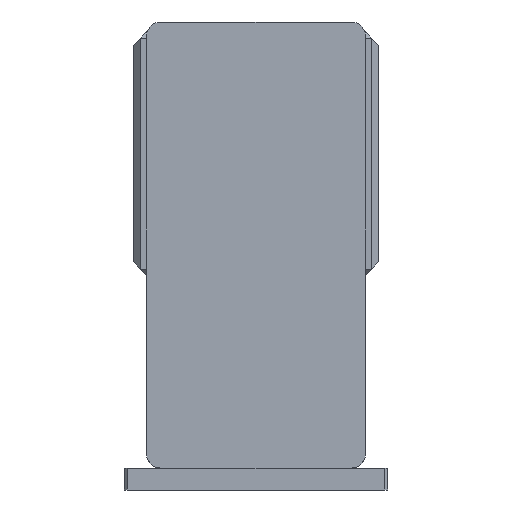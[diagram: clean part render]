
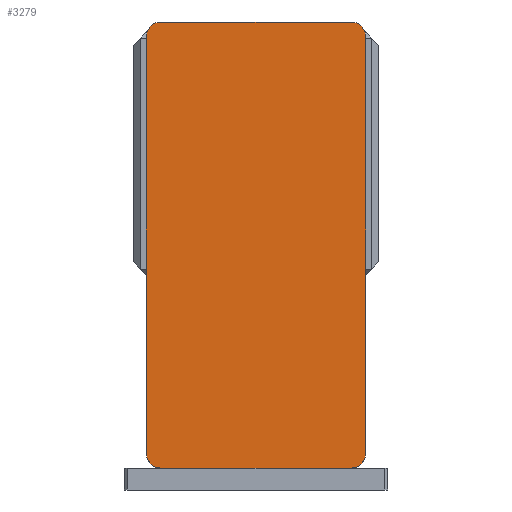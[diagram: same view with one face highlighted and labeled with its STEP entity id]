
A CAD part, left-side view. The second image highlights one B-rep face of the part: STEP entity #3279.
In plain terms, the highlighted planar face has unit normal (-1, 0, 0) as drawn and (0, 0, 1) by its records, which use the part's own axes.
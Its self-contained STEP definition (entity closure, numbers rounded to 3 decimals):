
#503 = AXIS2_PLACEMENT_3D ( 'NONE', #10462, #812, #12079 ) ;
#592 = EDGE_CURVE ( 'NONE', #19115, #14194, #10911, .T. ) ;
#812 = DIRECTION ( 'NONE',  ( 0., 0., 1. ) ) ;
#1109 = DIRECTION ( 'NONE',  ( 0., -1., 0. ) ) ;
#1526 = CARTESIAN_POINT ( 'NONE',  ( 65., -152.5, 105. ) ) ;
#1864 = EDGE_CURVE ( 'NONE', #14789, #4608, #19356, .T. ) ;
#1982 = CARTESIAN_POINT ( 'NONE',  ( -75., 152.5, 105. ) ) ;
#2236 = CIRCLE ( 'NONE', #9737, 10. ) ;
#2697 = EDGE_CURVE ( 'NONE', #9871, #4176, #4791, .T. ) ;
#2949 = EDGE_CURVE ( 'NONE', #4176, #19411, #2236, .T. ) ;
#3110 = EDGE_CURVE ( 'NONE', #6757, #19115, #8286, .T. ) ;
#3279 = ADVANCED_FACE ( 'NONE', ( #18372 ), #5191, .T. ) ;
#3939 = CARTESIAN_POINT ( 'NONE',  ( 75., 142.5, 105. ) ) ;
#4064 = AXIS2_PLACEMENT_3D ( 'NONE', #6771, #17793, #8376 ) ;
#4118 = AXIS2_PLACEMENT_3D ( 'NONE', #6530, #17559, #8140 ) ;
#4176 = VERTEX_POINT ( 'NONE', #1526 ) ;
#4241 = CARTESIAN_POINT ( 'NONE',  ( -65., -152.5, 105. ) ) ;
#4608 = VERTEX_POINT ( 'NONE', #7800 ) ;
#4791 = LINE ( 'NONE', #5295, #17405 ) ;
#5191 = PLANE ( 'NONE',  #18558 ) ;
#5295 = CARTESIAN_POINT ( 'NONE',  ( -75., -152.5, 105. ) ) ;
#5865 = CIRCLE ( 'NONE', #4064, 10. ) ;
#6530 = CARTESIAN_POINT ( 'NONE',  ( 65., 142.5, 105. ) ) ;
#6695 = VECTOR ( 'NONE', #15024, 1000. ) ;
#6757 = VERTEX_POINT ( 'NONE', #3939 ) ;
#6771 = CARTESIAN_POINT ( 'NONE',  ( -65., -142.5, 105. ) ) ;
#6821 = DIRECTION ( 'NONE',  ( 0., 0., 1. ) ) ;
#7800 = CARTESIAN_POINT ( 'NONE',  ( -75., -142.5, 105. ) ) ;
#8140 = DIRECTION ( 'NONE',  ( 1., 0., 0. ) ) ;
#8286 = CIRCLE ( 'NONE', #4118, 10. ) ;
#8376 = DIRECTION ( 'NONE',  ( 1., 0., 0. ) ) ;
#8503 = CARTESIAN_POINT ( 'NONE',  ( -65., 152.5, 105. ) ) ;
#8629 = CARTESIAN_POINT ( 'NONE',  ( 75., 152.5, 105. ) ) ;
#9162 = DIRECTION ( 'NONE',  ( 0., 0., 1. ) ) ;
#9653 = EDGE_LOOP ( 'NONE', ( #15020, #14278, #13291, #12101, #10613, #20380, #18705, #17233 ) ) ;
#9737 = AXIS2_PLACEMENT_3D ( 'NONE', #18587, #9162, #20142 ) ;
#9871 = VERTEX_POINT ( 'NONE', #4241 ) ;
#10213 = EDGE_CURVE ( 'NONE', #19411, #6757, #10772, .T. ) ;
#10462 = CARTESIAN_POINT ( 'NONE',  ( -65., 142.5, 105. ) ) ;
#10613 = ORIENTED_EDGE ( 'NONE', *, *, #592, .T. ) ;
#10772 = LINE ( 'NONE', #8629, #14938 ) ;
#10911 = LINE ( 'NONE', #15767, #6695 ) ;
#12079 = DIRECTION ( 'NONE',  ( 1., 0., 0. ) ) ;
#12101 = ORIENTED_EDGE ( 'NONE', *, *, #3110, .T. ) ;
#13138 = CARTESIAN_POINT ( 'NONE',  ( 65., 152.5, 105. ) ) ;
#13291 = ORIENTED_EDGE ( 'NONE', *, *, #10213, .T. ) ;
#14120 = EDGE_CURVE ( 'NONE', #4608, #9871, #5865, .T. ) ;
#14194 = VERTEX_POINT ( 'NONE', #8503 ) ;
#14223 = VECTOR ( 'NONE', #1109, 1000. ) ;
#14278 = ORIENTED_EDGE ( 'NONE', *, *, #2949, .T. ) ;
#14647 = CARTESIAN_POINT ( 'NONE',  ( 0., 0., 105. ) ) ;
#14789 = VERTEX_POINT ( 'NONE', #16801 ) ;
#14938 = VECTOR ( 'NONE', #16460, 1000. ) ;
#15020 = ORIENTED_EDGE ( 'NONE', *, *, #2697, .T. ) ;
#15024 = DIRECTION ( 'NONE',  ( -1., 0., 0. ) ) ;
#15767 = CARTESIAN_POINT ( 'NONE',  ( -75., 152.5, 105. ) ) ;
#16460 = DIRECTION ( 'NONE',  ( 0., 1., 0. ) ) ;
#16547 = CARTESIAN_POINT ( 'NONE',  ( 75., -142.5, 105. ) ) ;
#16801 = CARTESIAN_POINT ( 'NONE',  ( -75., 142.5, 105. ) ) ;
#17233 = ORIENTED_EDGE ( 'NONE', *, *, #14120, .T. ) ;
#17405 = VECTOR ( 'NONE', #17930, 1000. ) ;
#17559 = DIRECTION ( 'NONE',  ( 0., 0., 1. ) ) ;
#17793 = DIRECTION ( 'NONE',  ( 0., 0., 1. ) ) ;
#17820 = DIRECTION ( 'NONE',  ( 1., 0., 0. ) ) ;
#17930 = DIRECTION ( 'NONE',  ( 1., 0., 0. ) ) ;
#18372 = FACE_OUTER_BOUND ( 'NONE', #9653, .T. ) ;
#18558 = AXIS2_PLACEMENT_3D ( 'NONE', #14647, #6821, #17820 ) ;
#18587 = CARTESIAN_POINT ( 'NONE',  ( 65., -142.5, 105. ) ) ;
#18614 = EDGE_CURVE ( 'NONE', #14194, #14789, #18720, .T. ) ;
#18705 = ORIENTED_EDGE ( 'NONE', *, *, #1864, .T. ) ;
#18720 = CIRCLE ( 'NONE', #503, 10. ) ;
#19115 = VERTEX_POINT ( 'NONE', #13138 ) ;
#19356 = LINE ( 'NONE', #1982, #14223 ) ;
#19411 = VERTEX_POINT ( 'NONE', #16547 ) ;
#20142 = DIRECTION ( 'NONE',  ( 1., 0., 0. ) ) ;
#20380 = ORIENTED_EDGE ( 'NONE', *, *, #18614, .T. ) ;
